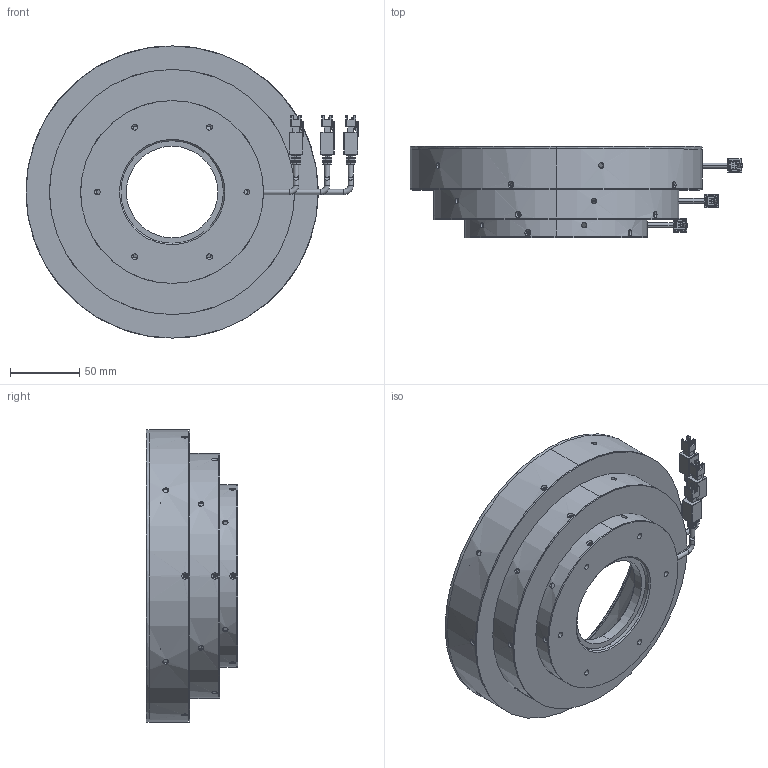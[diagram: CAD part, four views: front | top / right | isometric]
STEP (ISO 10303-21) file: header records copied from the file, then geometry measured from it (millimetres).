
FILE_DESCRIPTION (( 'STEP AP203' ), '1' );
FILE_NAME ('PPX-AOI211-RGB-V1.STEP', '2021-01-30T03:55:18', ( 'China' ), ( 'Home' ), 'SwSTEP 2.0', 'SolidWorks 2016', '' );
FILE_SCHEMA (( 'CONFIG_CONTROL_DESIGN' ));
Length unit declared in the file: millimetre
Products named in the file (11): PPX-AOI211-V1菴媼脯; PPX-AOI211-V1-MCS; PPX-AOI211-V1第三层; 两芯电源线无头 （母端）; PPX-AOI211-RGB-V1; PPX-AOI211-V1裔啣; PPX-AOI211PCB-R-V1; PPX-AOI211-V1菁釱; PPX-AOI211PCB-G-V1; PPX-AOI211-V1菴珨脯; PPX-AOI211PCB-B-V1
Assembly tree (12 placements, depth 2):
  PPX-AOI211-RGB-V1
    PPX-AOI211-V1菁釱
    PPX-AOI211-V1菴珨脯
    PPX-AOI211-V1菴媼脯
    PPX-AOI211-V1第三层
    PPX-AOI211-V1裔啣
    PPX-AOI211PCB-R-V1
    PPX-AOI211PCB-G-V1
    PPX-AOI211PCB-B-V1
    PPX-AOI211-V1-MCS
    两芯电源线无头 （母端）  x3
Bounding box: 239.75 x 66 x 211 mm (x, y, z)
Volume: 411431.5 mm3; surface area: 399916.1 mm2
Topology: 15 solids, 15 shells, 1154 faces, 2809 edges, 1717 vertices
Faces by surface type: plane 399, cylinder 369, cone 246, torus 118, sphere 16, bspline 6
Entity records: 25946 total; most frequent: CARTESIAN_POINT 7716, DIRECTION 3684, ORIENTED_EDGE 3414, EDGE_CURVE 1707, AXIS2_PLACEMENT_3D 1455, VERTEX_POINT 1039, EDGE_LOOP 884, LINE 774
